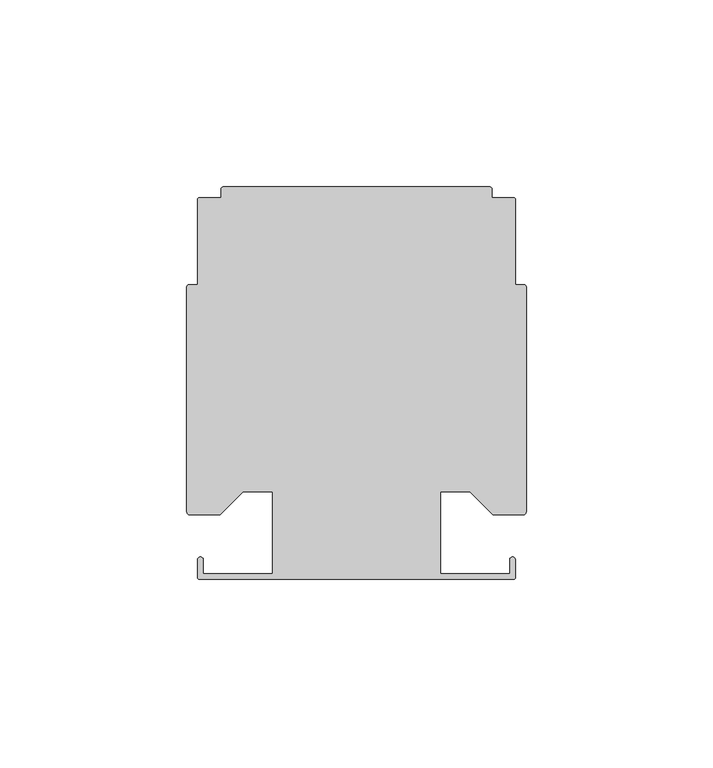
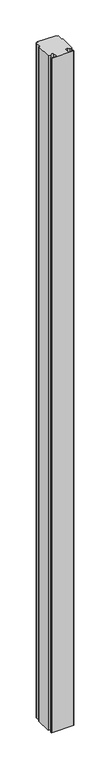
"""IFC4 building model written with IfcOpenShell, lengths in millimetres: member geometry, Прямоугольный импост : AMG-1-Профиль 105Х85 3 грани средний 3 стороны П."""

from ifc_helpers import new_model, si_unit, point, frame, frame_2d, origin, place, context, project, spatial, polyline, circle_curve, trimmed, segment, composite_curve, outline, extrude, source, transform, mapped, element, save


def member_421a079b(model_context):
    return source(origin(), model_context, "Body", "SweptSolid", [
        extrude(outline(composite_curve([segment(trimmed(circle_curve(frame_2d((-41.7023438, -36.8999999)), 0.8), [point((-42.4976562, -36.8135237))], [point((-41.7023438, -36.0999999))], False, "CARTESIAN"), True, "CONTINUOUS"), segment(polyline([(-41.7023438, -36.0999999), (-41.0023438, -36.4566677), (-41.0023438, -40.5999999), (-22.5023438, -40.5999999), (-22.5023438, -18.6999999), (-30.3523438, -18.6999999), (-36.5023438, -24.8499999), (-44.5976562, -24.8499999)]), True, "CONTINUOUS"), segment(trimmed(circle_curve(frame_2d((-44.5976562, -24.0499999)), 0.8), [point((-44.5976562, -24.8499999))], [point((-45.3976562, -24.0499999))], False, "CARTESIAN"), True, "CONTINUOUS"), segment(polyline([(-45.3976562, -24.0499999), (-45.3976562, 36.1500001)]), True, "CONTINUOUS"), segment(trimmed(circle_curve(frame_2d((-44.8976562, 36.1500001)), 0.5), [point((-45.3976562, 36.1500001))], [point((-44.8976562, 36.6500001))], False, "CARTESIAN"), True, "CONTINUOUS"), segment(polyline([(-44.8976562, 36.6500001), (-42.4976562, 36.6500001), (-42.4976562, 59.4000001)]), True, "CONTINUOUS"), segment(trimmed(circle_curve(frame_2d((-41.9976562, 59.4000001)), 0.5), [point((-42.4976562, 59.4000001))], [point((-41.9976562, 59.9000001))], False, "CARTESIAN"), True, "CONTINUOUS"), segment(polyline([(-41.9976562, 59.9000001), (-36.2476562, 59.9000001), (-36.2476562, 62.3000001)]), True, "CONTINUOUS"), segment(trimmed(circle_curve(frame_2d((-35.7476562, 62.3000001)), 0.5), [point((-36.2476562, 62.3000001))], [point((-35.7476562, 62.8000001))], False, "CARTESIAN"), True, "CONTINUOUS"), segment(polyline([(-35.7476562, 62.8000001), (35.7523438, 62.8000001)]), True, "CONTINUOUS"), segment(trimmed(circle_curve(frame_2d((35.7523438, 62.3000001)), 0.5), [point((35.7523438, 62.8000001))], [point((36.2523438, 62.3000001))], False, "CARTESIAN"), True, "CONTINUOUS"), segment(polyline([(36.2523438, 62.3000001), (36.2523438, 59.9000001), (42.0023438, 59.9000001)]), True, "CONTINUOUS"), segment(trimmed(circle_curve(frame_2d((42.0023438, 59.4000001)), 0.5), [point((42.0023438, 59.9000001))], [point((42.5023438, 59.4000001))], False, "CARTESIAN"), True, "CONTINUOUS"), segment(polyline([(42.5023438, 59.4000001), (42.5023438, 36.6500001), (44.9023438, 36.6500001)]), True, "CONTINUOUS"), segment(trimmed(circle_curve(frame_2d((44.9023438, 36.1500001)), 0.5), [point((44.9023438, 36.6500001))], [point((45.4023438, 36.1500001))], False, "CARTESIAN"), True, "CONTINUOUS"), segment(polyline([(45.4023438, 36.1500001), (45.4023438, -24.0499999)]), True, "CONTINUOUS"), segment(trimmed(circle_curve(frame_2d((44.6023438, -24.0499999)), 0.8), [point((45.4023438, -24.0499999))], [point((44.6023438, -24.8499999))], False, "CARTESIAN"), True, "CONTINUOUS"), segment(polyline([(44.6023438, -24.8499999), (36.5023438, -24.8499999), (30.3523438, -18.6999999), (22.5023438, -18.6999999), (22.5023438, -40.5999999), (41.0023438, -40.5999999), (41.0023438, -36.4566677), (41.7023438, -36.0999999)]), True, "CONTINUOUS"), segment(trimmed(circle_curve(frame_2d((41.7023438, -36.8999999)), 0.8), [point((41.7023438, -36.0999999))], [point((42.5023438, -36.8999999))], False, "CARTESIAN"), True, "CONTINUOUS"), segment(polyline([(42.5023438, -36.8999999), (42.5023438, -41.5999999)]), True, "CONTINUOUS"), segment(trimmed(circle_curve(frame_2d((42.0023438, -41.5999999)), 0.5), [point((42.5023438, -41.5999999))], [point((42.0023438, -42.0999999))], False, "CARTESIAN"), True, "CONTINUOUS"), segment(polyline([(42.0023438, -42.0999999), (-41.9976562, -42.0999999)]), True, "CONTINUOUS"), segment(trimmed(circle_curve(frame_2d((-41.9976562, -41.5999999)), 0.5), [point((-41.9976562, -42.0999999))], [point((-42.4976562, -41.5999999))], False, "CARTESIAN"), True, "CONTINUOUS"), segment(polyline([(-42.4976562, -41.5999999), (-42.4976562, -36.8135237)]), True, "CONTINUOUS")], self_intersect=False)), frame((0.0, 0.0, -2717.7849139), z_axis=(0.0, 0.0, 1.0), x_axis=(1.0, 0.0, 0.0)), (0.0, 0.0, 1.0), 2717.7849139),
    ])


if __name__ == "__main__":
    model = new_model("IFC4")
    model_context = context("Model", 3, world=origin())
    ifc_project = project(units=[si_unit("LENGTHUNIT", "METRE", prefix="MILLI")], contexts=[model_context])
    site = spatial("IfcSite", under=ifc_project)
    building = spatial("IfcBuilding", under=site)
    placement = place(None, origin())
    member_shape = member_421a079b(model_context)
    element("IfcMember", 1, ObjectType="Прямоугольный импост : AMG-1-Профиль 105Х85 3 грани средний 3 стороны П", at=placement, inside=building, context=model_context, shape_type="MappedRepresentation", body=[
        mapped(member_shape, transform((0.0, 0.0, 0.0), x_axis=(1.0, 0.0, 0.0), y_axis=(0.0, 1.0, 0.0), z_axis=(0.0, 0.0, 1.0))),
    ])
    save(model, "model.ifc")
